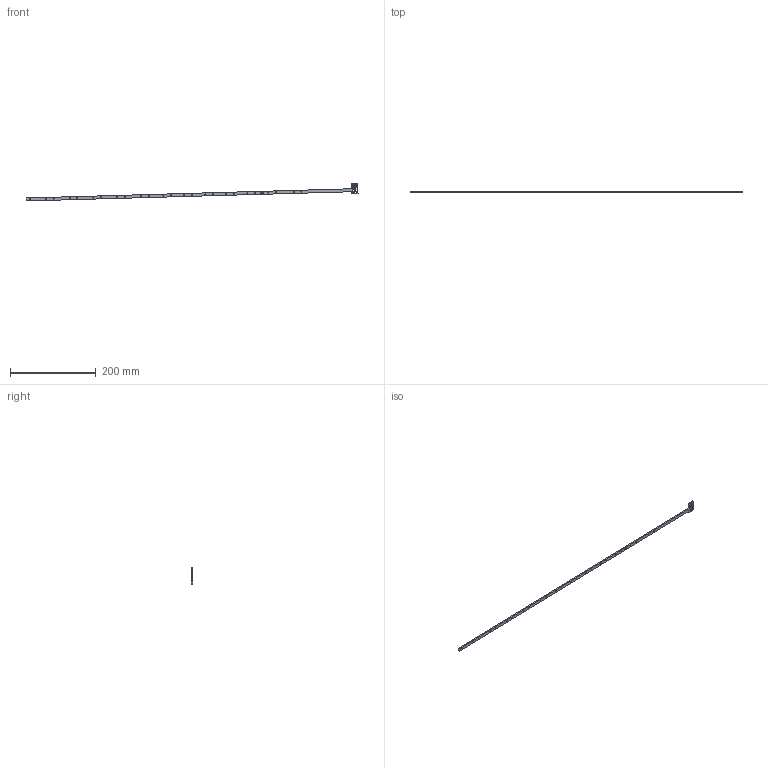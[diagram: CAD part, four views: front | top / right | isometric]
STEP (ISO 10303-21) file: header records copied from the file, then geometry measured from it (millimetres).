
FILE_DESCRIPTION((''),'2;1');
FILE_NAME('0000203981','2024-02-23T16:53:52',('Wyndorps'),(''),'CREO PARAMETRIC BY PTC INC, 2022484','CREO PARAMETRIC BY PTC INC, 2022484','');
FILE_SCHEMA(('CONFIG_CONTROL_DESIGN'));
Length unit declared in the file: millimetre
Products named in the file (1): 0000203981
Bounding box: 774.98 x 3 x 41.96 mm (x, y, z)
Volume: 16366.3 mm3; surface area: 16776.9 mm2
Topology: 1 solids, 1 shells, 142 faces, 420 edges, 280 vertices
Faces by surface type: plane 68, cylinder 50, extrusion 24
Entity records: 5055 total; most frequent: CARTESIAN_POINT 1071, ORIENTED_EDGE 840, DIRECTION 732, EDGE_CURVE 420, VECTOR 296, VERTEX_POINT 280, LINE 272, AXIS2_PLACEMENT_3D 218
